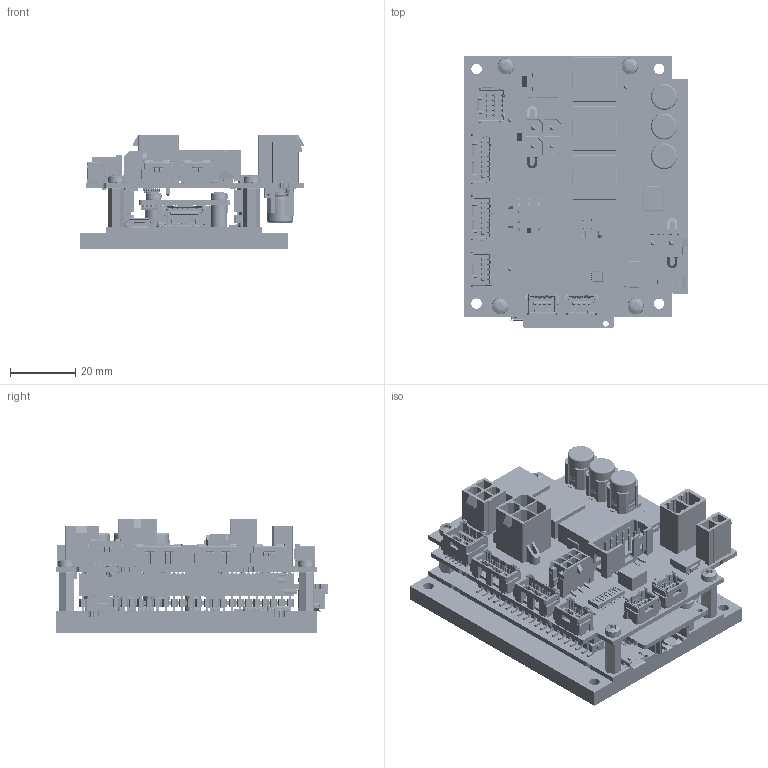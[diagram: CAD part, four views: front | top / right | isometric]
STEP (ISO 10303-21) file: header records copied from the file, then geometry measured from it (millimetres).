
FILE_DESCRIPTION((''),'2;1');
FILE_NAME('833726_EPOS4_COMP_60-20_CAN_STO','2025-05-16T13:07:38',('mmagvisi'),(''),'CREO PARAMETRIC BY PTC INC, 2023092','CREO PARAMETRIC BY PTC INC, 2023092','');
FILE_SCHEMA(('CONFIG_CONTROL_DESIGN','SHAPE_APPEARANCE_LAYERS_GROUPS'));
Products named in the file (1): 833726_EPOS4_COMP_60-20_CAN_STO
Bounding box: 69 x 83.55 x 34.86 mm (x, y, z)
Volume: 58013.7 mm3; surface area: 68864.8 mm2
Topology: 13 solids, 13 shells, 16559 faces, 48784 edges, 31887 vertices
Faces by surface type: plane 13455, cylinder 2696, sphere 150, bspline 120, cone 96, torus 38, extrusion 4
Entity records: 711298 total; most frequent: CARTESIAN_POINT 121465, ORIENTED_EDGE 97288, DIRECTION 84871, PRESENTATION_STYLE_ASSIGNMENT 48657, STYLED_ITEM 48657, CURVE_STYLE 48644, EDGE_CURVE 48644, VECTOR 41845
